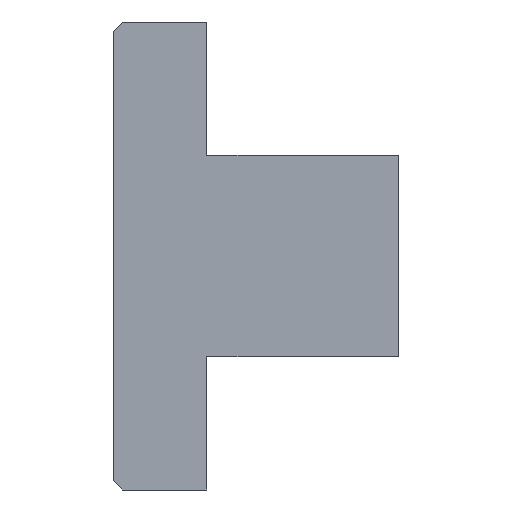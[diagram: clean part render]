
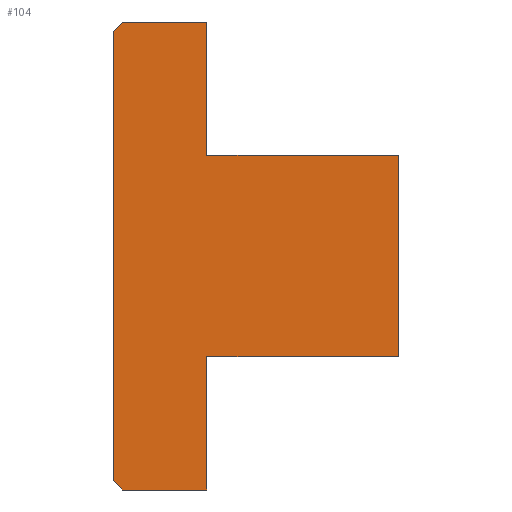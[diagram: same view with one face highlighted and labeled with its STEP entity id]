
A CAD part, front view. The second image highlights one B-rep face of the part: STEP entity #104.
In plain terms, the highlighted planar face has unit normal (0, -1, 0).
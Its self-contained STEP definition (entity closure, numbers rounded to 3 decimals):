
#4 = CARTESIAN_POINT ( 'NONE',  ( 2., 0., 2.15 ) ) ;
#25 = VECTOR ( 'NONE', #466, 1000. ) ;
#32 = CARTESIAN_POINT ( 'NONE',  ( 0., 0., -4.8 ) ) ;
#75 = CARTESIAN_POINT ( 'NONE',  ( 6.1, 0., 2.15 ) ) ;
#104 = ADVANCED_FACE ( 'NONE', ( #1231 ), #510, .F. ) ;
#128 = CARTESIAN_POINT ( 'NONE',  ( 6.1, 0., 2.15 ) ) ;
#162 = VERTEX_POINT ( 'NONE', #1701 ) ;
#167 = CARTESIAN_POINT ( 'NONE',  ( 2., 0., -5. ) ) ;
#202 = DIRECTION ( 'NONE',  ( 0., 0., -1. ) ) ;
#213 = VECTOR ( 'NONE', #523, 1000. ) ;
#241 = VECTOR ( 'NONE', #1028, 1000. ) ;
#294 = EDGE_CURVE ( 'NONE', #953, #1766, #869, .T. ) ;
#306 = CARTESIAN_POINT ( 'NONE',  ( 2., 0., -5. ) ) ;
#325 = ORIENTED_EDGE ( 'NONE', *, *, #1519, .T. ) ;
#340 = CARTESIAN_POINT ( 'NONE',  ( 2., 0., -5. ) ) ;
#357 = DIRECTION ( 'NONE',  ( 0., 0., 1. ) ) ;
#361 = VECTOR ( 'NONE', #202, 1000. ) ;
#383 = EDGE_CURVE ( 'NONE', #865, #1766, #1474, .T. ) ;
#410 = VERTEX_POINT ( 'NONE', #919 ) ;
#435 = CARTESIAN_POINT ( 'NONE',  ( 2., 0., -5. ) ) ;
#466 = DIRECTION ( 'NONE',  ( 0.707, 0., -0.707 ) ) ;
#510 = PLANE ( 'NONE',  #1540 ) ;
#523 = DIRECTION ( 'NONE',  ( 1., 0., 0. ) ) ;
#592 = CARTESIAN_POINT ( 'NONE',  ( 0., 0., 2.15 ) ) ;
#608 = DIRECTION ( 'NONE',  ( 1., 0., 0. ) ) ;
#654 = ORIENTED_EDGE ( 'NONE', *, *, #797, .F. ) ;
#677 = DIRECTION ( 'NONE',  ( -1., 0., 0. ) ) ;
#687 = ORIENTED_EDGE ( 'NONE', *, *, #1248, .T. ) ;
#708 = ORIENTED_EDGE ( 'NONE', *, *, #1660, .T. ) ;
#734 = DIRECTION ( 'NONE',  ( 0., 0., 1. ) ) ;
#743 = VECTOR ( 'NONE', #749, 1000. ) ;
#749 = DIRECTION ( 'NONE',  ( 0., 0., 1. ) ) ;
#772 = ORIENTED_EDGE ( 'NONE', *, *, #383, .T. ) ;
#781 = VERTEX_POINT ( 'NONE', #1225 ) ;
#788 = EDGE_CURVE ( 'NONE', #1627, #865, #1853, .T. ) ;
#797 = EDGE_CURVE ( 'NONE', #1743, #781, #1218, .T. ) ;
#799 = CARTESIAN_POINT ( 'NONE',  ( 0., 0., -4.8 ) ) ;
#803 = VECTOR ( 'NONE', #734, 1000. ) ;
#834 = ORIENTED_EDGE ( 'NONE', *, *, #788, .T. ) ;
#865 = VERTEX_POINT ( 'NONE', #799 ) ;
#869 = LINE ( 'NONE', #435, #241 ) ;
#919 = CARTESIAN_POINT ( 'NONE',  ( 2., 0., 5. ) ) ;
#928 = VECTOR ( 'NONE', #677, 1000. ) ;
#953 = VERTEX_POINT ( 'NONE', #306 ) ;
#961 = CARTESIAN_POINT ( 'NONE',  ( 0., 0., 2.15 ) ) ;
#976 = CARTESIAN_POINT ( 'NONE',  ( 0., 0., 4.8 ) ) ;
#993 = VECTOR ( 'NONE', #608, 1000. ) ;
#1028 = DIRECTION ( 'NONE',  ( -1., 0., 0. ) ) ;
#1083 = DIRECTION ( 'NONE',  ( 0., 0., -1. ) ) ;
#1098 = LINE ( 'NONE', #1838, #928 ) ;
#1121 = CARTESIAN_POINT ( 'NONE',  ( 0., 0., -2.15 ) ) ;
#1164 = VECTOR ( 'NONE', #1083, 1000. ) ;
#1218 = LINE ( 'NONE', #75, #1164 ) ;
#1225 = CARTESIAN_POINT ( 'NONE',  ( 6.1, 0., -2.15 ) ) ;
#1231 = FACE_OUTER_BOUND ( 'NONE', #1280, .T. ) ;
#1248 = EDGE_CURVE ( 'NONE', #1468, #781, #1860, .T. ) ;
#1261 = VERTEX_POINT ( 'NONE', #4 ) ;
#1280 = EDGE_LOOP ( 'NONE', ( #834, #772, #1432, #325, #687, #654, #1882, #1334, #1402, #708 ) ) ;
#1299 = VECTOR ( 'NONE', #1426, 1000. ) ;
#1334 = ORIENTED_EDGE ( 'NONE', *, *, #1849, .T. ) ;
#1341 = CARTESIAN_POINT ( 'NONE',  ( 2., 0., -2.15 ) ) ;
#1394 = CARTESIAN_POINT ( 'NONE',  ( 0., 0., 2.15 ) ) ;
#1402 = ORIENTED_EDGE ( 'NONE', *, *, #1577, .T. ) ;
#1426 = DIRECTION ( 'NONE',  ( -0.707, 0., -0.707 ) ) ;
#1432 = ORIENTED_EDGE ( 'NONE', *, *, #294, .F. ) ;
#1468 = VERTEX_POINT ( 'NONE', #1341 ) ;
#1474 = LINE ( 'NONE', #32, #25 ) ;
#1519 = EDGE_CURVE ( 'NONE', #953, #1468, #1813, .T. ) ;
#1540 = AXIS2_PLACEMENT_3D ( 'NONE', #961, #1683, #357 ) ;
#1577 = EDGE_CURVE ( 'NONE', #410, #162, #1098, .T. ) ;
#1627 = VERTEX_POINT ( 'NONE', #1718 ) ;
#1653 = LINE ( 'NONE', #167, #803 ) ;
#1660 = EDGE_CURVE ( 'NONE', #162, #1627, #1870, .T. ) ;
#1683 = DIRECTION ( 'NONE',  ( 0., 1., 0. ) ) ;
#1701 = CARTESIAN_POINT ( 'NONE',  ( 0.2, 0., 5. ) ) ;
#1718 = CARTESIAN_POINT ( 'NONE',  ( 0., 0., 4.8 ) ) ;
#1743 = VERTEX_POINT ( 'NONE', #128 ) ;
#1766 = VERTEX_POINT ( 'NONE', #1770 ) ;
#1770 = CARTESIAN_POINT ( 'NONE',  ( 0.2, 0., -5. ) ) ;
#1813 = LINE ( 'NONE', #340, #743 ) ;
#1838 = CARTESIAN_POINT ( 'NONE',  ( 2., 0., 5. ) ) ;
#1849 = EDGE_CURVE ( 'NONE', #1261, #410, #1653, .T. ) ;
#1853 = LINE ( 'NONE', #1394, #361 ) ;
#1860 = LINE ( 'NONE', #1121, #213 ) ;
#1862 = EDGE_CURVE ( 'NONE', #1261, #1743, #1925, .T. ) ;
#1870 = LINE ( 'NONE', #976, #1299 ) ;
#1882 = ORIENTED_EDGE ( 'NONE', *, *, #1862, .F. ) ;
#1925 = LINE ( 'NONE', #592, #993 ) ;
